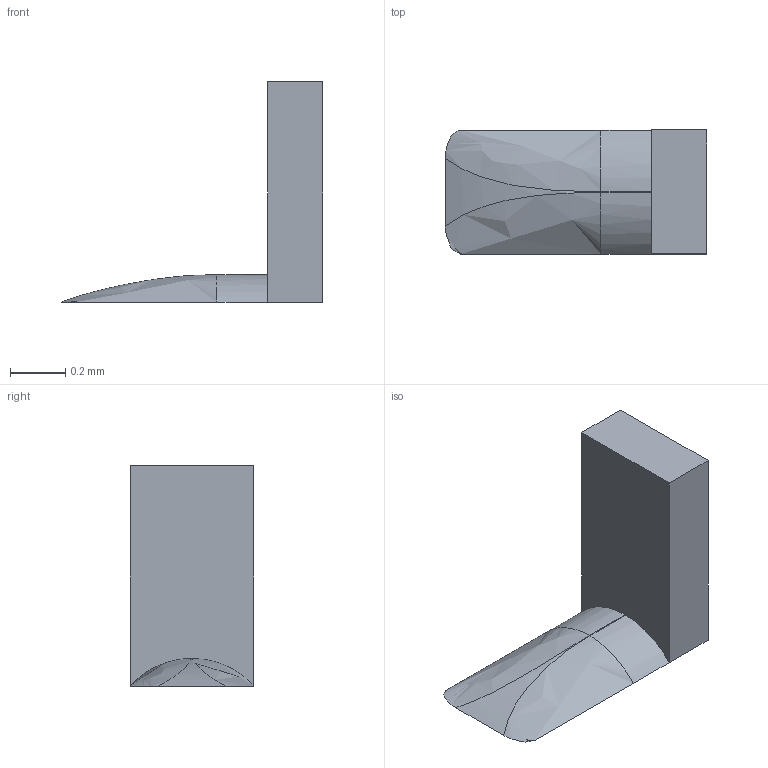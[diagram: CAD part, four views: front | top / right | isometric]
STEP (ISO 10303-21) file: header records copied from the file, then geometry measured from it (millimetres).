
FILE_DESCRIPTION(/* description */ ('STEP AP242 Edition 2','CAx-IF Rec.Pracs.---Representation and Presentation of Product Manufacturing Information (PMI)---4.0---2014-10-13','CAx-IF Rec.Pracs.---3D Tessellated Geometry---0.4---2014-09-14','2;1','CAx-IF Rec.Pracs.---User Defined Attributes---1.5---2016-08-15'),/* implementation_level */ '2;1');
FILE_NAME(/* name */ 'Drone Layout - Surface 241',/* time_stamp */ '2026-10-04T22:22:53Z',/* author */ (''),/* organization */ (''),/* preprocessor_version */ 'ST-DEVELOPER v20',/* originating_system */ 'ONSHAPE BY PTC INC, 1.221',/* authorisation */ ' ');
FILE_SCHEMA (('AP242_MANAGED_MODEL_BASED_3D_ENGINEERING_MIM_LF { 1 0 10303 442 3 1 4 }'));
Length unit declared in the file: metre
Products named in the file (1): respack:1__pad (4)
Bounding box: 0.95 x 0.45 x 0.8 mm (x, y, z)
Volume: 0.1 mm3; surface area: 1.9 mm2
Topology: 1 solids, 1 shells, 12 faces, 28 edges, 18 vertices
Faces by surface type: plane 7, cylinder 3, bspline 2
Entity records: 401 total; most frequent: CARTESIAN_POINT 131, ORIENTED_EDGE 56, DIRECTION 44, EDGE_CURVE 28, LINE 18, VECTOR 18, VERTEX_POINT 18, AXIS2_PLACEMENT_3D 13
